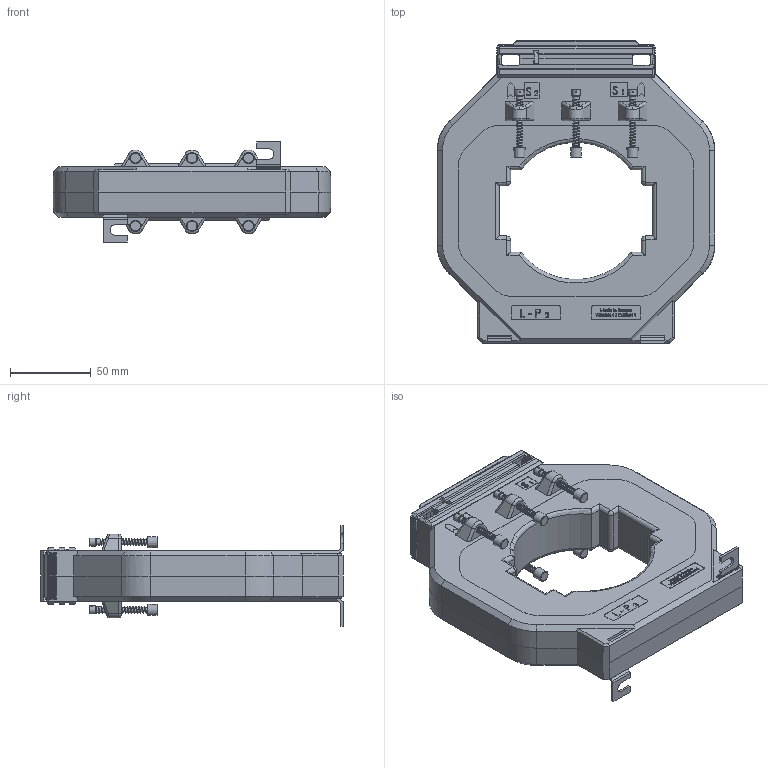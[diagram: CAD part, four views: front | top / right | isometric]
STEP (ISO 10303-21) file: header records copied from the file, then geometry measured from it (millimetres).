
FILE_DESCRIPTION(/* description */ (''),/* implementation_level */ '2;1');
FILE_NAME(/* name */ 'ASK103.3.stp',/* time_stamp */ '2024-03-04T14:06:10+01:00',/* author */ ('JDI'),/* organization */ (''),/* preprocessor_version */ 'ST-DEVELOPER v19.2',/* originating_system */ 'Autodesk Inventor 2023',/* authorisation */ '');
FILE_SCHEMA (('AUTOMOTIVE_DESIGN { 1 0 10303 214 3 1 1 }'));
Products named in the file (1): ASK103.3
Bounding box: 172 x 187.5 x 62 mm (x, y, z)
Volume: 643020.9 mm3; surface area: 89942 mm2
Topology: 2 solids, 2 shells, 1948 faces, 5242 edges, 3418 vertices
Faces by surface type: plane 1103, cylinder 431, bspline 352, cone 48, torus 10, sphere 4
Full cylindrical faces by diameter (mm): 2.95 x2, 3 x110, 3.4 x24, 3.8 x9, 4 x60, 4.1 x6, 4.4 x6, 5 x6
Entity records: 102104 total; most frequent: CARTESIAN_POINT 54503, ORIENTED_EDGE 10484, DIRECTION 7724, EDGE_CURVE 5242, LINE 3486, VECTOR 3486, VERTEX_POINT 3418, AXIS2_PLACEMENT_3D 2119
